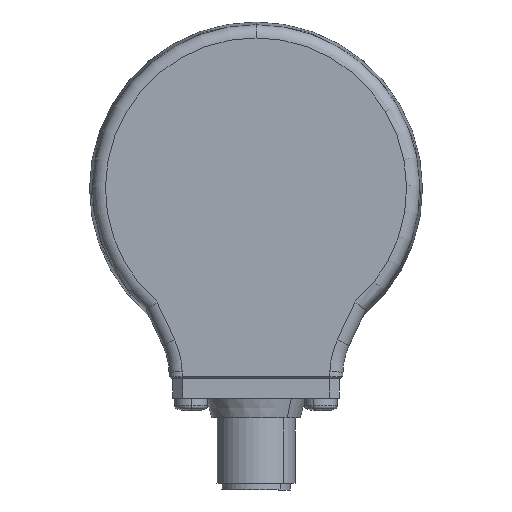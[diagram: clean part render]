
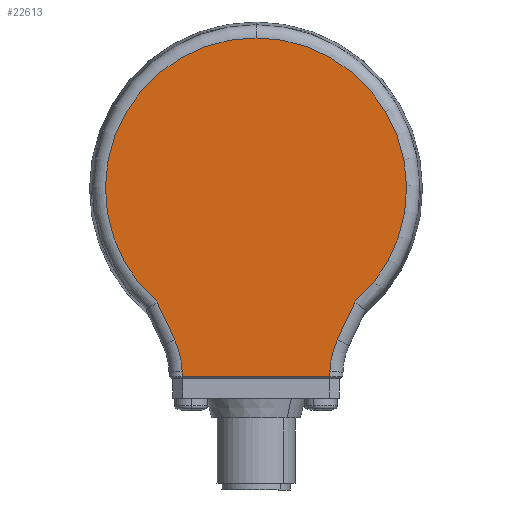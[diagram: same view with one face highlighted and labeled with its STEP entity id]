
A CAD part, left-side view. The second image highlights one B-rep face of the part: STEP entity #22613.
In plain terms, the highlighted planar face has unit normal (-1, 0, 0).
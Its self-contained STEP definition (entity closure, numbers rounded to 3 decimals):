
#353 = VERTEX_POINT ( 'NONE', #5500 ) ;
#529 = VERTEX_POINT ( 'NONE', #6172 ) ;
#533 = EDGE_CURVE ( 'NONE', #353, #529, #6170, .T. ) ;
#5500 = CARTESIAN_POINT ( 'NONE',  ( -21., 0., 22.972 ) ) ;
#6166 = DIRECTION ( 'NONE',  ( 0., 0., 1. ) ) ;
#6167 = DIRECTION ( 'NONE',  ( -1., 0., 0. ) ) ;
#6168 = CARTESIAN_POINT ( 'NONE',  ( -21., 0., 0. ) ) ;
#6169 = AXIS2_PLACEMENT_3D ( 'NONE', #6168, #6167, #6166 ) ;
#6170 = CIRCLE ( 'NONE', #6169, 22.972 ) ;
#6172 = CARTESIAN_POINT ( 'NONE',  ( -21., 15.091, -17.32 ) ) ;
#19303 = DIRECTION ( 'NONE',  ( 0., 0., 1. ) ) ;
#19304 = DIRECTION ( 'NONE',  ( -1., 0., 0. ) ) ;
#19305 = AXIS2_PLACEMENT_3D ( 'NONE', #19311, #19304, #19303 ) ;
#19306 = CIRCLE ( 'NONE', #19305, 22.972 ) ;
#19311 = CARTESIAN_POINT ( 'NONE',  ( -21., 0., 0. ) ) ;
#19361 = DIRECTION ( 'NONE',  ( 0., 0., 1. ) ) ;
#19362 = DIRECTION ( 'NONE',  ( 1., 0., 0. ) ) ;
#19363 = CARTESIAN_POINT ( 'NONE',  ( -21., -23.266, -28.183 ) ) ;
#19364 = AXIS2_PLACEMENT_3D ( 'NONE', #19363, #19362, #19361 ) ;
#19365 = CIRCLE ( 'NONE', #19364, 12. ) ;
#19366 = CARTESIAN_POINT ( 'NONE',  ( -21., -12.39, -23.112 ) ) ;
#19367 = CARTESIAN_POINT ( 'NONE',  ( -21., -15.091, -17.32 ) ) ;
#19368 = DIRECTION ( 'NONE',  ( 0., -0.423, 0.906 ) ) ;
#19369 = VECTOR ( 'NONE', #19368, 1000. ) ;
#19370 = CARTESIAN_POINT ( 'NONE',  ( -21., -14.953, -17.615 ) ) ;
#19371 = LINE ( 'NONE', #19370, #19369 ) ;
#19432 = CARTESIAN_POINT ( 'NONE',  ( -21., -11.268, -27.974 ) ) ;
#19539 = DIRECTION ( 'NONE',  ( 0., -0.017, 1. ) ) ;
#19540 = VECTOR ( 'NONE', #19539, 1000. ) ;
#19541 = CARTESIAN_POINT ( 'NONE',  ( -21., -11.752, -0.205 ) ) ;
#19542 = LINE ( 'NONE', #19541, #19540 ) ;
#19585 = CARTESIAN_POINT ( 'NONE',  ( -21., -11.255, -28.695 ) ) ;
#19595 = LINE ( 'NONE', #19652, #19651 ) ;
#19631 = DIRECTION ( 'NONE',  ( 0., -1., 0. ) ) ;
#19632 = VECTOR ( 'NONE', #19631, 1000. ) ;
#19633 = CARTESIAN_POINT ( 'NONE',  ( -21., -11.25, -28.695 ) ) ;
#19634 = LINE ( 'NONE', #19633, #19632 ) ;
#19650 = DIRECTION ( 'NONE',  ( 0., -0.017, -1. ) ) ;
#19651 = VECTOR ( 'NONE', #19650, 1000. ) ;
#19652 = CARTESIAN_POINT ( 'NONE',  ( -21., 11.752, -0.205 ) ) ;
#19667 = CARTESIAN_POINT ( 'NONE',  ( -21., 11.268, -27.974 ) ) ;
#19668 = CARTESIAN_POINT ( 'NONE',  ( -21., 11.255, -28.695 ) ) ;
#19695 = FACE_OUTER_BOUND ( 'NONE', #22601, .T. ) ;
#19724 = DIRECTION ( 'NONE',  ( 0., 0., 1. ) ) ;
#19725 = DIRECTION ( 'NONE',  ( 1., 0., 0. ) ) ;
#19726 = CARTESIAN_POINT ( 'NONE',  ( -21., 0., 0. ) ) ;
#19727 = AXIS2_PLACEMENT_3D ( 'NONE', #19726, #19725, #19724 ) ;
#19729 = PLANE ( 'NONE',  #19727 ) ;
#19883 = CARTESIAN_POINT ( 'NONE',  ( -21., 12.39, -23.112 ) ) ;
#19884 = DIRECTION ( 'NONE',  ( 0., -0.423, -0.906 ) ) ;
#19885 = VECTOR ( 'NONE', #19884, 1000. ) ;
#19886 = CARTESIAN_POINT ( 'NONE',  ( -21., 12.39, -23.112 ) ) ;
#19887 = LINE ( 'NONE', #19886, #19885 ) ;
#19904 = CARTESIAN_POINT ( 'NONE',  ( -21., 23.266, -28.183 ) ) ;
#19952 = DIRECTION ( 'NONE',  ( 0., 0., 1. ) ) ;
#19953 = DIRECTION ( 'NONE',  ( 1., 0., 0. ) ) ;
#19954 = AXIS2_PLACEMENT_3D ( 'NONE', #19904, #19953, #19952 ) ;
#19955 = CIRCLE ( 'NONE', #19954, 12. ) ;
#21603 = ORIENTED_EDGE ( 'NONE', *, *, #21604, .T. ) ;
#21604 = EDGE_CURVE ( 'NONE', #21619, #353, #19306, .T. ) ;
#21606 = ORIENTED_EDGE ( 'NONE', *, *, #22659, .T. ) ;
#21611 = ORIENTED_EDGE ( 'NONE', *, *, #533, .T. ) ;
#21617 = ORIENTED_EDGE ( 'NONE', *, *, #21618, .T. ) ;
#21618 = EDGE_CURVE ( 'NONE', #21621, #21619, #19371, .T. ) ;
#21619 = VERTEX_POINT ( 'NONE', #19367 ) ;
#21620 = EDGE_CURVE ( 'NONE', #22520, #21621, #19365, .T. ) ;
#21621 = VERTEX_POINT ( 'NONE', #19366 ) ;
#21966 = ORIENTED_EDGE ( 'NONE', *, *, #21620, .T. ) ;
#22520 = VERTEX_POINT ( 'NONE', #19432 ) ;
#22558 = EDGE_CURVE ( 'NONE', #22570, #22520, #19542, .T. ) ;
#22560 = ORIENTED_EDGE ( 'NONE', *, *, #22558, .T. ) ;
#22570 = VERTEX_POINT ( 'NONE', #19585 ) ;
#22591 = EDGE_CURVE ( 'NONE', #22608, #22605, #19595, .T. ) ;
#22597 = EDGE_CURVE ( 'NONE', #22605, #22570, #19634, .T. ) ;
#22601 = EDGE_LOOP ( 'NONE', ( #22607, #22606, #22560, #21966, #21617, #21603, #21611, #21606, #22661 ) ) ;
#22605 = VERTEX_POINT ( 'NONE', #19668 ) ;
#22606 = ORIENTED_EDGE ( 'NONE', *, *, #22597, .T. ) ;
#22607 = ORIENTED_EDGE ( 'NONE', *, *, #22591, .T. ) ;
#22608 = VERTEX_POINT ( 'NONE', #19667 ) ;
#22613 = ADVANCED_FACE ( 'NONE', ( #19695 ), #19729, .F. ) ;
#22659 = EDGE_CURVE ( 'NONE', #529, #22660, #19887, .T. ) ;
#22660 = VERTEX_POINT ( 'NONE', #19883 ) ;
#22661 = ORIENTED_EDGE ( 'NONE', *, *, #22672, .T. ) ;
#22672 = EDGE_CURVE ( 'NONE', #22660, #22608, #19955, .T. ) ;
